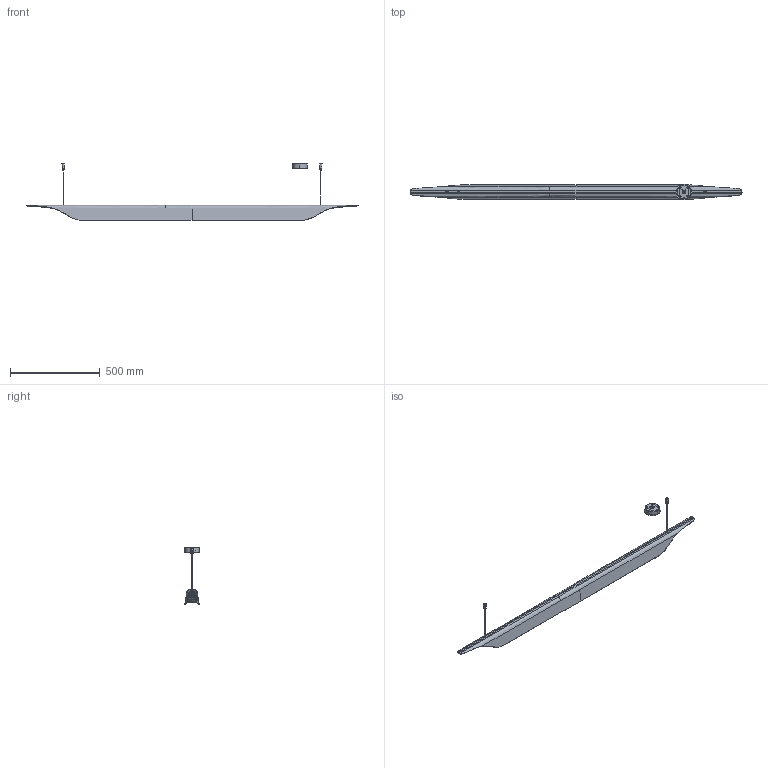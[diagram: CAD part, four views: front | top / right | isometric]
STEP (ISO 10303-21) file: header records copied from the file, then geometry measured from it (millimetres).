
FILE_DESCRIPTION (( 'STEP AP203' ), '1' );
FILE_NAME ('205_MEDIA_S_LD_3D.STEP', '2024-07-12T08:46:58', ( '' ), ( '' ), 'SwSTEP 2.0', 'SolidWorks 2023', '' );
FILE_SCHEMA (( 'CONFIG_CONTROL_DESIGN' ));
Products named in the file (1): 205_MEDIA_S_LD_3D
Bounding box: 1846 x 88 x 316.2 mm (x, y, z)
Volume: 2619728.6 mm3; surface area: 952379.9 mm2
Topology: 25 solids, 25 shells, 1609 faces, 3821 edges, 2314 vertices
Faces by surface type: plane 830, cylinder 363, bspline 298, cone 70, torus 48
Entity records: 91520 total; most frequent: CARTESIAN_POINT 57402, ORIENTED_EDGE 7618, DIRECTION 6138, EDGE_CURVE 3809, VERTEX_POINT 2314, AXIS2_PLACEMENT_3D 2109, VECTOR 1920, LINE 1920
